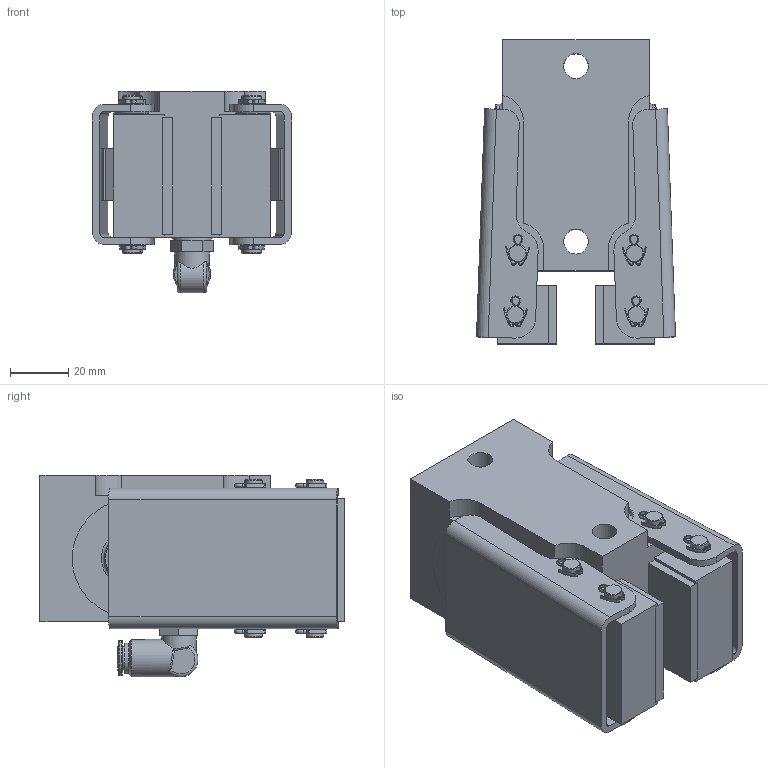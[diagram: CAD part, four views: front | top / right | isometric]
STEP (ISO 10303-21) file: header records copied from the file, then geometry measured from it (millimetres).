
FILE_DESCRIPTION(/* description */ ('','CAx-IF Rec.Pracs.---Representation and Presentation of Product Manufacturing Information (PMI)---4.0---2014-10-13'),/* implementation_level */ '2;1');
FILE_NAME(/* name */ 'X:\INVENTOR\DISEGNI\19_Pinze\STEP x Sito\PNEUM-POSITIVE\19_16_C02_03 PPC C02_12,7.stp',/* time_stamp */ '2018-02-16T16:38:52+01:00',/* author */ ('stefano'),/* organization */ (''),/* preprocessor_version */ 'ST-DEVELOPER v17',/* originating_system */ 'Autodesk Inventor 2018',/* authorisation */ '');
FILE_SCHEMA (('AP203_CONFIGURATION_CONTROLLED_3D_DESIGN_OF_MECHANICAL_PARTS_AND_ASSEMBLIES_MIM_LF { 1 0 10303 203 3 1 4 }','INTEGRATED_CNC_SCHEMA','AP242_MANAGED_MODEL_BASED_3D_ENGINEERING_MIM_LF { 1 0 10303 442 1 1 4 }'));
Length unit declared in the file: millimetre
Products named in the file (1): 19_16_C02_03 PPC C02_12,7_Substitute_2
Bounding box: 68.05 x 103.99 x 69 mm (x, y, z)
Volume: 242668.9 mm3; surface area: 68653.8 mm2
Topology: 7 solids, 7 shells, 470 faces, 1410 edges, 948 vertices
Faces by surface type: plane 180, cylinder 147, bspline 101, cone 32, torus 8, sphere 2
Full cylindrical faces by diameter (mm): 1.5 x8, 3.242 x3, 4.5 x2, 5.5 x1, 6 x7, 6.1 x10, 6.46 x1, 8 x2, 8.5 x2, 8.566 x1, 10.2 x1, 11.8 x1, 12 x1, 12.8 x1, 13 x1, 18 x2, 20 x1, 25 x1, 34 x1
Entity records: 22024 total; most frequent: CARTESIAN_POINT 9195, ORIENTED_EDGE 2812, DIRECTION 2532, EDGE_CURVE 1406, AXIS2_PLACEMENT_3D 972, VERTEX_POINT 948, CIRCLE 591, LINE 588
